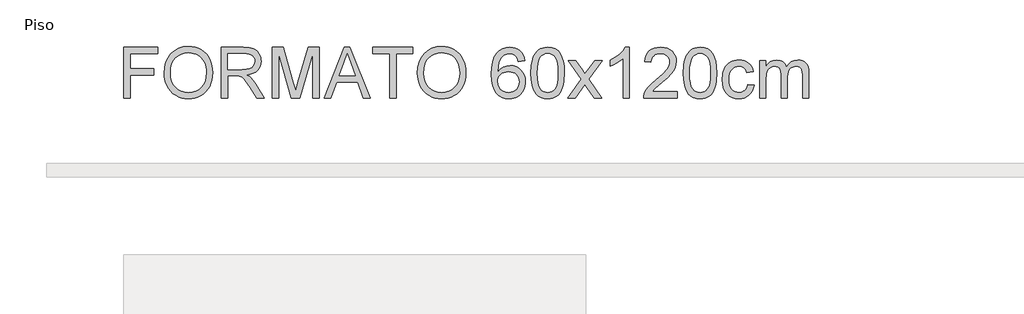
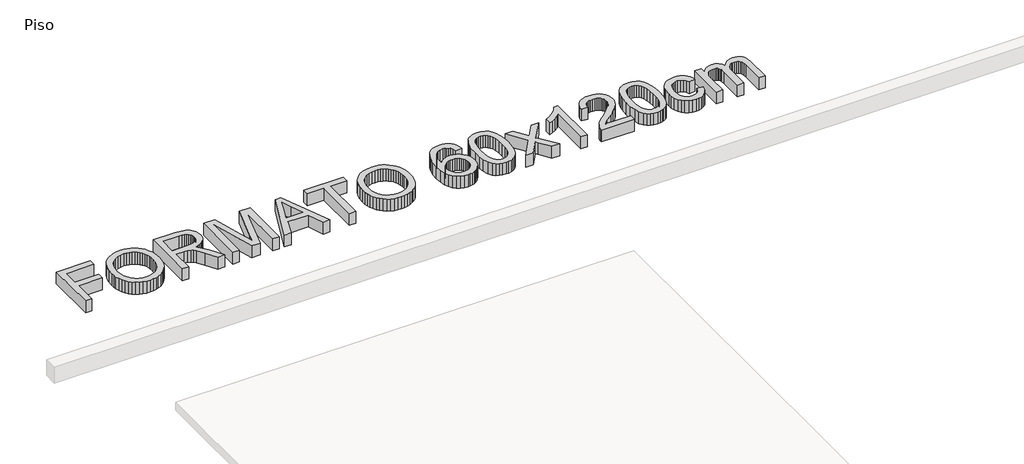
# One storey, part 2 of 2: 1 proxy.
"""IFC4 building model written with IfcOpenShell, lengths in millimetres."""

from ifc_helpers import new_model, si_unit, origin, origin_with_axes, place, context, project, spatial, polyline, outline, extrude, element, save

model = new_model("IFC4")

# Units and contexts
model_context = context("Model", 3, world=origin())
ifc_project = project(units=[si_unit("LENGTHUNIT", "METRE", prefix="MILLI")], contexts=[model_context])

# Site, building, storey
site = spatial("IfcSite", under=ifc_project)
building = spatial("IfcBuilding", under=site)
storey = spatial("IfcBuildingStorey", under=building, Name="Piso", Elevation=0.0)

# Proxy
placement = place(None, origin())
element("IfcBuildingElementProxy", 1, Name="600mm Arial", ObjectType="600mm Arial", at=placement, inside=storey, context=model_context, shape_type="SweptSolid", body=[
    extrude(outline(polyline([(92602.0859381, 2702.6380465), (92602.0859381, 3305.3759074), (93007.0504384, 3305.3759074), (93007.0504384, 3230.0336748), (92677.4281707, 3230.0336748), (92677.4281707, 3051.0958724), (92959.961543, 3051.0958724), (92959.961543, 2975.7536397), (92677.4281707, 2975.7536397), (92677.4281707, 2702.6380465), (92602.0859381, 2702.6380465)])), origin_with_axes(), (0.0, 0.0, 1.0), 150.0),
    extrude(outline(polyline([(93082.392671, 2996.0607259), (93087.4142602, 3066.7584483), (93102.4790279, 3129.3443727), (93127.5869741, 3183.8184992), (93143.9071391, 3208.0136381), (93162.7380987, 3230.1808276), (93205.8262774, 3267.1989534), (93254.7453857, 3293.6404718), (93309.4954237, 3309.5053828), (93370.0763912, 3314.7936865), (93410.6261841, 3312.310483), (93449.134232, 3304.8608726), (93485.6005348, 3292.4448553), (93520.0250925, 3275.062431), (93551.4422148, 3253.2378317), (93578.8862117, 3227.495289), (93602.357083, 3197.8348032), (93621.8548287, 3164.2563741), (93637.1771138, 3127.5233569), (93648.1216032, 3088.3991067), (93654.6882968, 3046.8836235), (93656.8771947, 3002.9769074), (93654.5733337, 2958.4907771), (93647.6617507, 2916.4142739), (93636.1424457, 2876.7473978), (93620.0154187, 2839.4901487), (93599.6623474, 2805.6266111), (93575.4649091, 2776.1408692), (93547.423104, 2751.032923), (93515.5369321, 2730.3027726), (93481.0617906, 2714.0791766), (93445.2530769, 2702.4908937), (93408.110791, 2695.537924), (93369.6349328, 2693.2202674), (93328.3769671, 2695.7816458), (93289.3630815, 2703.465781), (93252.5932761, 2716.272673), (93218.0675508, 2734.2023217), (93186.6872166, 2756.56035), (93159.3535844, 2782.6523805), (93136.0666541, 2812.4784132), (93116.8264257, 2846.0384482), (93101.761658, 2881.9851177), (93091.0011097, 2918.9710538), (93084.5447807, 2956.9962565), (93082.392671, 2996.0607259)]), holes=[polyline([(93157.7349036, 2995.3249619), (93161.5010955, 2945.375784), (93172.7996713, 2901.0368065), (93191.6306309, 2862.3080295), (93217.9939744, 2829.1894529), (93250.0410947, 2802.665161), (93285.9233848, 2783.7192383), (93325.6408447, 2772.3516846), (93369.1934744, 2768.5625001), (93413.4910652, 2772.3884728), (93453.6775746, 2783.8663911), (93489.7530028, 2802.9962548), (93521.7173496, 2829.7780641), (93547.8875551, 2863.5956165), (93566.5805589, 2903.8327097), (93577.7963613, 2950.4893437), (93581.5349621, 3003.5655186), (93579.9346754, 3038.0452586), (93575.1338153, 3070.2625243), (93567.1323819, 3100.2173158), (93555.9303752, 3127.9096329), (93541.6519553, 3152.9761924), (93524.4212823, 3175.0537106), (93504.2383563, 3194.1421877), (93481.1031774, 3210.2416235), (93455.7331153, 3223.0209243), (93428.84554, 3232.1489963), (93400.4404514, 3237.6258395), (93370.5178496, 3239.4514539), (93328.4781346, 3235.9335823), (93289.4734461, 3225.3799676), (93253.503784, 3207.7906097), (93220.5691484, 3183.1655086), (93193.0791663, 3150.318245), (93173.4434648, 3108.0623993), (93161.6620439, 3056.3979716), (93157.7349036, 2995.3249619)])]), origin_with_axes(), (0.0, 0.0, 1.0), 150.0),
    extrude(outline(polyline([(93760.4727645, 2702.6380465), (93760.4727645, 3305.3759074), (94020.1974531, 3305.3759074), (94090.0030617, 3301.3108114), (94140.7891711, 3289.1155232), (94160.3880844, 3279.4218327), (94177.9084644, 3266.6011451), (94193.3503112, 3250.6534606), (94206.7136247, 3231.5787792), (94217.4971656, 3210.4025718), (94225.1996949, 3188.1503097), (94229.8212125, 3164.8219926), (94231.3617183, 3140.4176208), (94228.809537, 3109.4603509), (94221.152993, 3081.0414668), (94208.3920863, 3055.1609684), (94190.5268169, 3031.8188558), (94167.3272585, 3011.76009), (94138.563485, 2995.7296321), (94104.2354964, 2983.727482), (94064.3432925, 2975.7536397), (94089.1753272, 2959.5300438), (94107.1647568, 2943.527177), (94138.0300562, 2906.9229184), (94168.233168, 2865.9776524), (94268.738529, 2702.6380465), (94181.1826142, 2702.6380465), (94102.7501728, 2827.5707721), (94046.0963456, 2910.2706446), (94025.0351013, 2934.3853094), (94006.2915137, 2949.3397125), (93970.4598074, 2963.6871103), (93926.7554263, 2966.3358607), (93835.8149971, 2966.3358607), (93835.8149971, 2702.6380465), (93760.4727645, 2702.6380465)]), holes=[polyline([(93835.8149971, 3041.6780933), (94004.4521037, 3041.6780933), (94052.8837684, 3044.3452377), (94090.4629142, 3052.3466711), (94118.7530396, 3066.2158224), (94139.3176431, 3086.4861203), (94151.8440251, 3111.0054553), (94156.0194857, 3137.6217176), (94154.0283244, 3156.8895371), (94148.0548405, 3174.3731289), (94138.099034, 3190.0724931), (94124.1609049, 3203.9876296), (94105.9185565, 3215.3827744), (94083.050092, 3223.5221635), (94055.5555114, 3228.405797), (94023.4348147, 3230.0336748), (93835.8149971, 3230.0336748), (93835.8149971, 3041.6780933)])]), origin_with_axes(), (0.0, 0.0, 1.0), 150.0),
    extrude(outline(polyline([(94363.2106254, 2702.6380465), (94363.2106254, 3305.3759074), (94492.8522405, 3305.3759074), (94616.1662853, 2880.5457794), (94641.0351082, 2791.8126422), (94667.9640702, 2887.9034193), (94789.2179758, 3305.3759074), (94918.8595909, 3305.3759074), (94918.8595909, 2702.6380465), (94843.5173583, 2702.6380465), (94843.5173583, 3230.0336748), (94692.0971291, 2702.6380465), (94589.9730872, 2702.6380465), (94438.552858, 3230.0336748), (94438.552858, 2702.6380465), (94363.2106254, 2702.6380465)])), origin_with_axes(), (0.0, 0.0, 1.0), 150.0),
    extrude(outline(polyline([(94980.5166133, 2702.6380465), (95221.1114382, 3305.3759074), (95285.2700581, 3305.3759074), (95525.864883, 2702.6380465), (95446.2552192, 2702.6380465), (95377.2405569, 2890.9936281), (95128.9937866, 2890.9936281), (95060.1262771, 2702.6380465), (94980.5166133, 2702.6380465)]), holes=[polyline([(95156.6585126, 2966.3358607), (95349.7229837, 2966.3358607), (95295.4236012, 3114.5187283), (95253.1907481, 3230.0336748), (95215.6667846, 3127.4681746), (95156.6585126, 2966.3358607)])]), origin_with_axes(), (0.0, 0.0, 1.0), 150.0),
    extrude(outline(polyline([(95757.0419287, 2702.6380465), (95757.0419287, 3230.0336748), (95559.2685681, 3230.0336748), (95559.2685681, 3305.3759074), (96030.1575219, 3305.3759074), (96030.1575219, 3230.0336748), (95832.3841613, 3230.0336748), (95832.3841613, 2702.6380465), (95757.0419287, 2702.6380465)])), origin_with_axes(), (0.0, 0.0, 1.0), 150.0),
    extrude(outline(polyline([(96086.6641964, 2996.0607259), (96091.6857856, 3066.7584483), (96106.7505533, 3129.3443727), (96131.8584995, 3183.8184992), (96148.1786645, 3208.0136381), (96167.0096242, 3230.1808276), (96210.0978028, 3267.1989534), (96259.0169111, 3293.6404718), (96313.7669491, 3309.5053828), (96374.3479166, 3314.7936865), (96414.8977096, 3312.310483), (96453.4057574, 3304.8608726), (96489.8720602, 3292.4448553), (96524.2966179, 3275.062431), (96555.7137403, 3253.2378317), (96583.1577371, 3227.495289), (96606.6286084, 3197.8348032), (96626.1263541, 3164.2563741), (96641.4486392, 3127.5233569), (96652.3931286, 3088.3991067), (96658.9598222, 3046.8836235), (96661.1487201, 3002.9769074), (96658.8448591, 2958.4907771), (96651.9332761, 2916.4142739), (96640.4139711, 2876.7473978), (96624.2869442, 2839.4901487), (96603.9338728, 2805.6266111), (96579.7364345, 2776.1408692), (96551.6946295, 2751.032923), (96519.8084575, 2730.3027726), (96485.3333161, 2714.0791766), (96449.5246024, 2702.4908937), (96412.3823164, 2695.537924), (96373.9064582, 2693.2202674), (96332.6484925, 2695.7816458), (96293.6346069, 2703.465781), (96256.8648015, 2716.272673), (96222.3390762, 2734.2023217), (96190.958742, 2756.56035), (96163.6251098, 2782.6523805), (96140.3381795, 2812.4784132), (96121.0979512, 2846.0384482), (96106.0331835, 2881.9851177), (96095.2726351, 2918.9710538), (96088.8163061, 2956.9962565), (96086.6641964, 2996.0607259)]), holes=[polyline([(96162.006429, 2995.3249619), (96165.7726209, 2945.375784), (96177.0711967, 2901.0368065), (96195.9021564, 2862.3080295), (96222.2654998, 2829.1894529), (96254.3126201, 2802.665161), (96290.1949102, 2783.7192383), (96329.9123701, 2772.3516846), (96373.4649998, 2768.5625001), (96417.7625906, 2772.3884728), (96457.9491, 2783.8663911), (96494.0245282, 2802.9962548), (96525.988875, 2829.7780641), (96552.1590805, 2863.5956165), (96570.8520844, 2903.8327097), (96582.0678867, 2950.4893437), (96585.8064875, 3003.5655186), (96584.2062008, 3038.0452586), (96579.4053407, 3070.2625243), (96571.4039074, 3100.2173158), (96560.2019006, 3127.9096329), (96545.9234807, 3152.9761924), (96528.6928077, 3175.0537106), (96508.5098818, 3194.1421877), (96485.3747028, 3210.2416235), (96460.0046407, 3223.0209243), (96433.1170654, 3232.1489963), (96404.7119768, 3237.6258395), (96374.789375, 3239.4514539), (96332.74966, 3235.9335823), (96293.7449715, 3225.3799676), (96257.7753094, 3207.7906097), (96224.8406738, 3183.1655086), (96197.3506917, 3150.318245), (96177.7149902, 3108.0623993), (96165.9335693, 3056.3979716), (96162.006429, 2995.3249619)])]), origin_with_axes(), (0.0, 0.0, 1.0), 150.0),
    extrude(outline(polyline([(97358.0643717, 3145.2736631), (97282.7221391, 3135.855884), (97270.5820333, 3173.1959066), (97254.1744963, 3198.6901288), (97237.9784915, 3212.4029302), (97219.9982589, 3222.1977883), (97200.2337988, 3228.0747032), (97178.6851109, 3230.0336748), (97143.6627449, 3225.4719381), (97110.7005182, 3211.7867278), (97082.3919987, 3182.9631735), (97059.2706153, 3143.2871003), (97050.2345137, 3117.9814176), (97043.6540246, 3087.166702), (97037.8598831, 3009.0101721), (97068.081389, 3044.2716613), (97104.2993715, 3069.1220901), (97144.4904794, 3083.855764), (97186.631362, 3088.7669887), (97222.8309503, 3085.4100655), (97256.2346355, 3075.3392958), (97286.8424175, 3058.5546798), (97314.6542963, 3035.0562174), (97337.7664827, 3006.2418601), (97354.2751872, 2973.5095596), (97364.1804099, 2936.8593158), (97367.4821508, 2896.2911288), (97365.9278494, 2868.8241393), (97361.2649451, 2842.3412342), (97353.4934379, 2816.8424134), (97342.6133279, 2792.3276769), (97329.0108912, 2769.7121313), (97313.0724037, 2749.9108829), (97294.7978656, 2732.9239318), (97274.1872768, 2718.7512779), (97251.6820958, 2707.5814608), (97227.7237808, 2699.6030201), (97202.312332, 2694.8159556), (97175.4477493, 2693.2202674), (97130.5339562, 2697.4509104), (97089.9703678, 2710.1428392), (97053.7569839, 2731.2960539), (97021.8938045, 2760.9105546), (96995.9167372, 2800.2371398), (96977.361689, 2850.5266086), (96966.2286602, 2911.7789608), (96962.5176505, 2983.9941964), (96966.6379289, 3064.9558265), (96978.9987639, 3134.0532623), (96999.6001556, 3191.2865037), (97012.9910603, 3215.4540515), (97028.4421041, 3236.6555507), (97059.7028766, 3266.7207068), (97095.9484502, 3288.1958182), (97137.1788248, 3301.0808851), (97183.3940004, 3305.3759074), (97218.0944696, 3302.71796), (97249.502395, 3294.7441178), (97277.6177764, 3281.4543807), (97302.4406141, 3262.8487488), (97323.2995232, 3239.5526214), (97339.5231192, 3212.191398), (97351.111402, 3180.7650786), (97358.0643717, 3145.2736631)]), holes=[polyline([(97037.8598831, 2897.4683512), (97042.2192848, 2864.0830601), (97055.2974897, 2832.2060852), (97075.6045758, 2804.7988766), (97101.6506211, 2784.8228842), (97133.0861376, 2772.6275961), (97169.5616374, 2768.5625001), (97195.7502369, 2770.6686245), (97219.2808891, 2776.9869978), (97240.1535938, 2787.5176199), (97258.368351, 2802.2604908), (97273.1434117, 2820.6178024), (97283.6970264, 2841.9917463), (97290.0291953, 2866.3823226), (97292.1399182, 2893.7895312), (97290.0567864, 2920.1252835), (97283.807391, 2943.5087829), (97273.391732, 2963.9400292), (97258.8098094, 2981.4190225), (97240.5398699, 2995.4215309), (97219.0601599, 3005.4233227), (97194.3706795, 3011.4243977), (97166.4714287, 3013.4247561), (97140.632317, 3011.4243977), (97116.8257534, 3005.4233227), (97095.0517378, 2995.4215309), (97075.3102702, 2981.4190225), (97058.9257259, 2964.1699554), (97047.2224799, 2944.4284879), (97040.2005323, 2922.1946198), (97037.8598831, 2897.4683512)])]), origin_with_axes(), (0.0, 0.0, 1.0), 150.0),
    extrude(outline(polyline([(97433.4066044, 2999.1509346), (97438.9432284, 3095.6279879), (97445.8640084, 3136.5410643), (97455.5531005, 3172.5705072), (97467.9691178, 3204.0106222), (97483.0706737, 3231.1557149), (97500.8577682, 3254.0057853), (97521.3304012, 3272.5608335), (97544.5575507, 3286.9174283), (97570.6081945, 3297.1721389), (97599.4823325, 3303.3249653), (97631.179965, 3305.3759074), (97677.6066727, 3300.5198651), (97719.1773382, 3285.9517381), (97753.9421867, 3262.2417435), (97779.9514438, 3229.9600984), (97799.5963424, 3189.3827143), (97815.2681153, 3140.7855028), (97825.532023, 3079.0732981), (97828.9533256, 2999.1509346), (97823.4718838, 2903.2257044), (97816.6200817, 2862.4505838), (97807.0275587, 2826.4671261), (97794.7081103, 2795.0132155), (97779.6755323, 2767.8267361), (97761.9298246, 2744.9076878), (97741.4709871, 2726.2560706), (97718.2162465, 2711.8029067), (97692.0828293, 2701.4792182), (97663.0707354, 2695.2850051), (97631.179965, 2693.2202674), (97589.6828759, 2696.8071169), (97552.8946764, 2707.5676653), (97520.8153664, 2725.5019125), (97493.444946, 2750.6098587), (97467.1781715, 2795.9972999), (97448.4161898, 2852.5499596), (97437.1590007, 2920.2678378), (97433.4066044, 2999.1509346)]), holes=[polyline([(97508.748837, 2999.2980874), (97510.9561289, 2933.8012967), (97517.5780048, 2880.7849027), (97528.6144647, 2840.2489053), (97544.0655085, 2812.1933047), (97562.7539139, 2793.1048277), (97583.5024584, 2779.4702012), (97606.3111421, 2771.2894254), (97631.179965, 2768.5625001), (97656.0487878, 2771.2986224), (97678.8574715, 2779.5069894), (97699.6060161, 2793.1876011), (97718.2944214, 2812.3404575), (97733.7454652, 2840.4420434), (97744.7819251, 2880.9688437), (97751.403801, 2933.9208584), (97753.611093, 2999.2980874), (97751.4773774, 3063.0612342), (97745.0762307, 3115.1441277), (97734.4076528, 3155.5467678), (97719.4716438, 3184.2691546), (97701.0959381, 3204.2911322), (97680.1082703, 3218.5925448), (97656.5086403, 3227.1733923), (97630.2970482, 3230.0336748), (97605.556984, 3227.5136831), (97583.1345764, 3219.9537081), (97563.0298254, 3207.3537498), (97545.2427309, 3189.7138081), (97529.2766523, 3158.4438385), (97517.8723104, 3116.2845619), (97511.0297053, 3063.2359782), (97508.748837, 2999.2980874)])]), origin_with_axes(), (0.0, 0.0, 1.0), 150.0),
    extrude(outline(polyline([(97866.6244419, 2702.6380465), (98027.609603, 2925.1330772), (97876.0422209, 3145.2736631), (97966.6883446, 3145.2736631), (98039.8232852, 3039.3236485), (98073.9627344, 2989.2916972), (98103.5404468, 3030.200175), (98186.8289305, 3145.2736631), (98277.4750541, 3145.2736631), (98118.2557266, 2925.1330772), (98271.5889422, 2702.6380465), (98180.9428186, 2702.6380465), (98088.6780142, 2836.39994), (98071.7554424, 2860.8273045), (97957.2705655, 2702.6380465), (97866.6244419, 2702.6380465)])), origin_with_axes(), (0.0, 0.0, 1.0), 150.0),
    extrude(outline(polyline([(98601.2112098, 2702.6380465), (98525.8689772, 2702.6380465), (98525.8689772, 3172.349778), (98494.4150666, 3146.910738), (98454.4998702, 3121.5084862), (98412.5981109, 3099.3068078), (98375.184512, 3083.4694879), (98375.184512, 3154.6914422), (98434.3583309, 3186.8811168), (98485.622687, 3225.1776325), (98526.0345241, 3265.9021693), (98552.6507865, 3305.3759074), (98601.2112098, 3305.3759074), (98601.2112098, 2702.6380465)])), origin_with_axes(), (0.0, 0.0, 1.0), 150.0),
    extrude(outline(polyline([(99166.2779544, 2777.9802791), (99166.2779544, 2702.6380465), (98770.7312332, 2702.6380465), (98772.3867022, 2729.1623384), (98778.8246371, 2754.5829842), (98797.4026779, 2795.1787624), (98824.5891573, 2834.56053), (98863.9157426, 2875.7817076), (98918.9141009, 2921.8957157), (99000.2160218, 2994.1109513), (99048.9971744, 3047.4170524), (99063.2250105, 3069.1956665), (99073.3877506, 3090.679975), (99079.4853947, 3111.869978), (99081.5179427, 3132.7656753), (99079.6003578, 3152.4243694), (99073.8476031, 3170.4919739), (99064.2596786, 3186.9684888), (99050.8365843, 3201.853914), (99034.3232813, 3214.1825593), (99015.4647305, 3222.9887346), (98994.260932, 3228.2724398), (98970.7118858, 3230.0336748), (98945.9028437, 3228.3138265), (98923.7149609, 3223.1542815), (98904.1482373, 3214.5550399), (98887.2026729, 3202.5161016), (98873.49447, 3187.4421368), (98863.6398311, 3169.7378158), (98857.6387561, 3149.4031385), (98855.4912449, 3126.438105), (98780.1490123, 3135.855884), (98786.6283339, 3174.750208), (98798.4143534, 3208.7333073), (98815.5070706, 3237.805182), (98837.9064855, 3261.965832), (98865.0975635, 3280.95774), (98896.5652697, 3294.5233886), (98932.309604, 3302.6627777), (98972.3305666, 3305.3759074), (99012.7102141, 3302.3592751), (99048.6476865, 3293.309378), (99080.1429838, 3278.2262162), (99107.196106, 3257.1097897), (99128.9241363, 3231.5235969), (99144.444158, 3203.0311364), (99153.756171, 3171.6324081), (99156.8601754, 3137.327412), (99153.5124492, 3101.2933706), (99143.4692707, 3065.8847286), (99125.6453881, 3029.8690812), (99098.9555493, 2992.0140239), (99056.4099966, 2946.8197208), (98991.0189719, 2888.7863361), (98904.3459739, 2816.313583), (98870.3536775, 2777.9802791), (99166.2779544, 2777.9802791)])), origin_with_axes(), (0.0, 0.0, 1.0), 150.0),
    extrude(outline(polyline([(99241.620187, 2999.1509346), (99247.1568111, 3095.6279879), (99254.0775911, 3136.5410643), (99263.7666832, 3172.5705072), (99276.1827005, 3204.0106222), (99291.2842564, 3231.1557149), (99309.0713509, 3254.0057853), (99329.5439839, 3272.5608335), (99352.7711334, 3286.9174283), (99378.8217771, 3297.1721389), (99407.6959152, 3303.3249653), (99439.3935477, 3305.3759074), (99485.8202554, 3300.5198651), (99527.3909209, 3285.9517381), (99562.1557694, 3262.2417435), (99588.1650265, 3229.9600984), (99607.809925, 3189.3827143), (99623.481698, 3140.7855028), (99633.7456057, 3079.0732981), (99637.1669083, 2999.1509346), (99631.6854665, 2903.2257044), (99624.8336644, 2862.4505838), (99615.2411413, 2826.4671261), (99602.921693, 2795.0132155), (99587.889115, 2767.8267361), (99570.1434073, 2744.9076878), (99549.6845698, 2726.2560706), (99526.4298292, 2711.8029067), (99500.296412, 2701.4792182), (99471.2843181, 2695.2850051), (99439.3935477, 2693.2202674), (99397.8964586, 2696.8071169), (99361.1082591, 2707.5676653), (99329.0289491, 2725.5019125), (99301.6585287, 2750.6098587), (99275.3917542, 2795.9972999), (99256.6297724, 2852.5499596), (99245.3725834, 2920.2678378), (99241.620187, 2999.1509346)]), holes=[polyline([(99316.9624197, 2999.2980874), (99319.1697116, 2933.8012967), (99325.7915875, 2880.7849027), (99336.8280474, 2840.2489053), (99352.2790912, 2812.1933047), (99370.9674965, 2793.1048277), (99391.7160411, 2779.4702012), (99414.5247248, 2771.2894254), (99439.3935477, 2768.5625001), (99464.2623705, 2771.2986224), (99487.0710542, 2779.5069894), (99507.8195988, 2793.1876011), (99526.5080041, 2812.3404575), (99541.9590479, 2840.4420434), (99552.9955078, 2880.9688437), (99559.6173837, 2933.9208584), (99561.8246756, 2999.2980874), (99559.6909601, 3063.0612342), (99553.2898134, 3115.1441277), (99542.6212355, 3155.5467678), (99527.6852265, 3184.2691546), (99509.3095208, 3204.2911322), (99488.321853, 3218.5925448), (99464.722223, 3227.1733923), (99438.5106309, 3230.0336748), (99413.7705667, 3227.5136831), (99391.3481591, 3219.9537081), (99371.243408, 3207.3537498), (99353.4563136, 3189.7138081), (99337.490235, 3158.4438385), (99326.0858931, 3116.2845619), (99319.243288, 3063.2359782), (99316.9624197, 2999.2980874)])]), origin_with_axes(), (0.0, 0.0, 1.0), 150.0),
    extrude(outline(polyline([(100004.4602922, 2862.7402908), (100079.8025249, 2853.3225117), (100071.6079534, 2817.7713154), (100058.7964629, 2786.3128063), (100041.3680534, 2758.9469844), (100019.3227248, 2735.6738497), (99993.5893793, 2717.1004075), (99965.0969188, 2703.833663), (99933.8453433, 2695.8736163), (99899.8346528, 2693.2202674), (99857.5788071, 2696.92208), (99819.6915602, 2708.0275178), (99786.1729119, 2726.5365806), (99757.0228623, 2752.4492687), (99733.4278308, 2785.2781382), (99716.5742369, 2824.5357456), (99706.4620806, 2870.2220909), (99703.0913618, 2922.337174), (99708.848715, 2989.3836677), (99716.0454065, 3019.5545898), (99726.1207747, 3047.4906288), (99739.1437973, 3072.6307646), (99755.1834523, 3094.4139773), (99774.2397397, 3112.8402667), (99796.3126594, 3127.9096329), (99820.4043315, 3139.6266745), (99845.5168762, 3147.9959899), (99871.6502935, 3153.0175791), (99898.8045832, 3154.6914422), (99932.231261, 3152.3921797), (99962.4665625, 3145.4943923), (99989.5104877, 3133.99808), (100013.3630365, 3117.9032427), (100033.6195389, 3097.5777624), (100049.8753245, 3073.3895213), (100062.1303935, 3045.3385191), (100070.3847458, 3013.4247561), (99995.0425132, 3004.006977), (99981.375697, 3036.8772332), (99960.0937236, 3060.440075), (99932.3738153, 3074.6219259), (99899.3931944, 3079.3492096), (99873.7932061, 3077.022356), (99850.7040124, 3070.0417951), (99830.1256133, 3058.407527), (99812.0580088, 3042.1195517), (99797.3473275, 3020.8007901), (99786.839698, 2994.0741631), (99780.5351203, 2961.9396708), (99778.4335944, 2924.3973132), (99780.4891351, 2886.289337), (99786.655757, 2853.7823642), (99796.9334602, 2826.8763948), (99811.3222448, 2805.5714288), (99829.0311643, 2789.3800225), (99849.2692726, 2777.8147322), (99872.0365696, 2770.8755581), (99897.3330552, 2768.5625001), (99936.3469408, 2774.3382474), (99953.2189288, 2781.5579315), (99968.3342803, 2791.6654894), (99981.269931, 2804.7712854), (99991.6028165, 2820.9856844), (99999.3329369, 2840.3086862), (100004.4602922, 2862.7402908)])), origin_with_axes(), (0.0, 0.0, 1.0), 150.0),
    extrude(outline(polyline([(100145.7269784, 2702.6380465), (100145.7269784, 3145.2736631), (100221.069211, 3145.2736631), (100221.069211, 3072.4330281), (100243.7307419, 3105.8918955), (100272.8669959, 3132.1034877), (100307.4846917, 3149.0444536), (100346.5905478, 3154.6914422), (100388.492307, 3148.934089), (100406.3253867, 3141.7373974), (100422.0799332, 3131.6620293), (100447.1694852, 3104.0156974), (100463.5770222, 3067.1355273), (100491.0394132, 3105.4412401), (100522.3645651, 3132.8024635), (100557.5524779, 3149.2191975), (100596.6031517, 3154.6914422), (100626.7648768, 3152.4151724), (100653.2385848, 3145.5863628), (100676.0242759, 3134.2050136), (100695.12195, 3118.2711247), (100710.2189074, 3097.6007551), (100721.0024483, 3072.0099638), (100727.4725729, 3041.4987508), (100729.6292811, 3006.0671161), (100729.6292811, 2702.6380465), (100654.2870485, 2702.6380465), (100654.2870485, 2973.6935006), (100652.539609, 3011.2726464), (100647.2972906, 3036.6013217), (100637.4748413, 3053.9469578), (100621.9870093, 3067.5769857), (100602.0661993, 3076.4061536), (100578.9448159, 3079.3492096), (100557.5938646, 3077.4638144), (100538.1283085, 3071.8076287), (100520.5481477, 3062.3806526), (100504.8533821, 3049.182886), (100491.9453226, 3031.8280529), (100482.7252801, 3009.9298771), (100477.1932546, 2983.4883587), (100475.3492461, 2952.5034976), (100475.3492461, 2702.6380465), (100400.0070135, 2702.6380465), (100400.0070135, 2982.0812101), (100395.6476118, 3024.6819451), (100390.1983598, 3041.4021818), (100382.5694069, 3055.0689979), (100372.4572505, 3065.6915905), (100359.5583881, 3073.2791567), (100343.8728195, 3077.8316964), (100325.4005448, 3079.3492096), (100296.3746554, 3075.3025076), (100269.6296344, 3063.1624018), (100247.5567147, 3043.2231977), (100232.5471293, 3015.7792008), (100223.9386906, 2977.7034143), (100221.069211, 2925.8688412), (100221.069211, 2702.6380465), (100145.7269784, 2702.6380465)])), origin_with_axes(), (0.0, 0.0, 1.0), 150.0),
])

save(model, "model.ifc")
